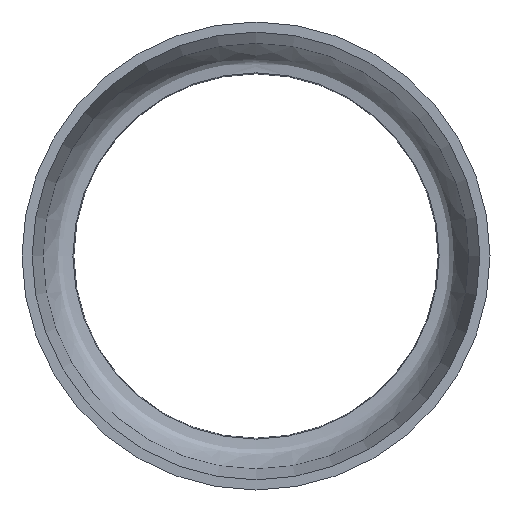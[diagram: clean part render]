
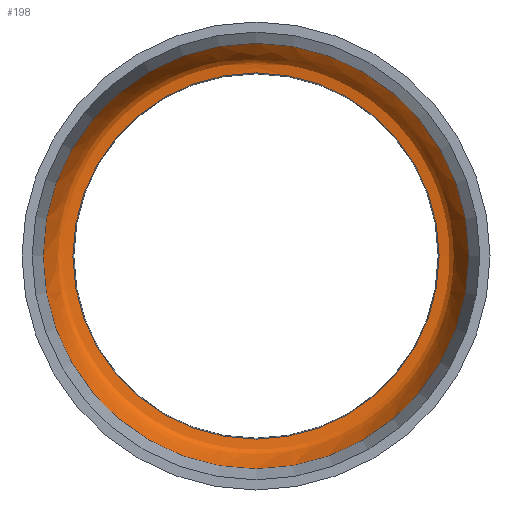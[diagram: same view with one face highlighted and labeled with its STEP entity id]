
A CAD part, front view. The second image highlights one B-rep face of the part: STEP entity #198.
In plain terms, the highlighted free-form (B-spline) face has degree [2, 2] with [3, 9] control points.
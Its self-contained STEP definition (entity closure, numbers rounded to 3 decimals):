
#23=(
BOUNDED_CURVE()
B_SPLINE_CURVE(2,(#440,#441,#442),.UNSPECIFIED.,.F.,.F.)
B_SPLINE_CURVE_WITH_KNOTS((3,3),(0.,1.28),.UNSPECIFIED.)
CURVE()
GEOMETRIC_REPRESENTATION_ITEM()
RATIONAL_B_SPLINE_CURVE((1.,3.,1.))
REPRESENTATION_ITEM('')
);
#26=(
BOUNDED_SURFACE()
B_SPLINE_SURFACE(2,2,((#412,#413,#414,#415,#416,#417,#418,#419,#420),(#421,
#422,#423,#424,#425,#426,#427,#428,#429),(#430,#431,#432,#433,#434,#435,
#436,#437,#438)),.UNSPECIFIED.,.F.,.T.,.F.)
B_SPLINE_SURFACE_WITH_KNOTS((3,3),(3,2,2,2,3),(0.,1.28),(0.,
1.571,3.142,4.712,6.283),
 .UNSPECIFIED.)
GEOMETRIC_REPRESENTATION_ITEM()
RATIONAL_B_SPLINE_SURFACE(((1.,0.707,1.,0.707,1.,
0.707,1.,0.707,1.),(3.,2.121,
3.,2.121,3.,2.121,3.,
2.121,3.),(1.,0.707,1.,0.707,
1.,0.707,1.,0.707,1.)))
REPRESENTATION_ITEM('')
SURFACE()
);
#55=FACE_OUTER_BOUND('',#72,.T.);
#72=EDGE_LOOP('',(#169,#170,#171,#172,#173));
#90=CIRCLE('',#238,45.);
#91=CIRCLE('',#239,52.346);
#92=CIRCLE('',#240,52.346);
#105=VERTEX_POINT('',#407);
#106=VERTEX_POINT('',#439);
#107=VERTEX_POINT('',#443);
#127=EDGE_CURVE('',#105,#105,#90,.T.);
#128=EDGE_CURVE('',#106,#105,#23,.T.);
#129=EDGE_CURVE('',#107,#106,#91,.T.);
#130=EDGE_CURVE('',#106,#107,#92,.T.);
#169=ORIENTED_EDGE('',*,*,#128,.T.);
#170=ORIENTED_EDGE('',*,*,#127,.T.);
#171=ORIENTED_EDGE('',*,*,#128,.F.);
#172=ORIENTED_EDGE('',*,*,#129,.F.);
#173=ORIENTED_EDGE('',*,*,#130,.F.);
#198=ADVANCED_FACE('',(#55),#26,.T.);
#238=AXIS2_PLACEMENT_3D('',#411,#295,#296);
#239=AXIS2_PLACEMENT_3D('',#444,#297,#298);
#240=AXIS2_PLACEMENT_3D('',#445,#299,#300);
#295=DIRECTION('center_axis',(0.,1.,0.));
#296=DIRECTION('ref_axis',(1.,0.,0.));
#297=DIRECTION('center_axis',(0.,1.,0.));
#298=DIRECTION('ref_axis',(1.,0.,0.));
#299=DIRECTION('center_axis',(0.,1.,0.));
#300=DIRECTION('ref_axis',(1.,0.,0.));
#407=CARTESIAN_POINT('',(0.,0.,45.));
#411=CARTESIAN_POINT('Origin',(0.,0.,0.));
#412=CARTESIAN_POINT('Ctrl Pts',(0.,-9.382,52.346));
#413=CARTESIAN_POINT('Ctrl Pts',(52.346,-9.382,52.346));
#414=CARTESIAN_POINT('Ctrl Pts',(52.346,-9.382,0.));
#415=CARTESIAN_POINT('Ctrl Pts',(52.346,-9.382,-52.346));
#416=CARTESIAN_POINT('Ctrl Pts',(0.,-9.382,-52.346));
#417=CARTESIAN_POINT('Ctrl Pts',(-52.346,-9.382,-52.346));
#418=CARTESIAN_POINT('Ctrl Pts',(-52.346,-9.382,0.));
#419=CARTESIAN_POINT('Ctrl Pts',(-52.346,-9.382,52.346));
#420=CARTESIAN_POINT('Ctrl Pts',(0.,-9.382,52.346));
#421=CARTESIAN_POINT('Ctrl Pts',(0.,0.003,48.548));
#422=CARTESIAN_POINT('Ctrl Pts',(48.548,0.003,48.548));
#423=CARTESIAN_POINT('Ctrl Pts',(48.548,0.003,0.));
#424=CARTESIAN_POINT('Ctrl Pts',(48.548,0.003,-48.548));
#425=CARTESIAN_POINT('Ctrl Pts',(0.,0.003,-48.548));
#426=CARTESIAN_POINT('Ctrl Pts',(-48.548,0.003,
-48.548));
#427=CARTESIAN_POINT('Ctrl Pts',(-48.548,0.003,
0.));
#428=CARTESIAN_POINT('Ctrl Pts',(-48.548,0.003,
48.548));
#429=CARTESIAN_POINT('Ctrl Pts',(0.,0.003,48.548));
#430=CARTESIAN_POINT('Ctrl Pts',(0.,0.,45.));
#431=CARTESIAN_POINT('Ctrl Pts',(45.,0.,45.));
#432=CARTESIAN_POINT('Ctrl Pts',(45.,0.,0.));
#433=CARTESIAN_POINT('Ctrl Pts',(45.,0.,-45.));
#434=CARTESIAN_POINT('Ctrl Pts',(0.,0.,-45.));
#435=CARTESIAN_POINT('Ctrl Pts',(-45.,0.,-45.));
#436=CARTESIAN_POINT('Ctrl Pts',(-45.,0.,0.));
#437=CARTESIAN_POINT('Ctrl Pts',(-45.,0.,45.));
#438=CARTESIAN_POINT('Ctrl Pts',(0.,0.,45.));
#439=CARTESIAN_POINT('',(0.,-9.382,52.346));
#440=CARTESIAN_POINT('Ctrl Pts',(0.,-9.382,52.346));
#441=CARTESIAN_POINT('Ctrl Pts',(0.,0.003,48.548));
#442=CARTESIAN_POINT('Ctrl Pts',(0.,0.,45.));
#443=CARTESIAN_POINT('',(0.,-9.382,-52.346));
#444=CARTESIAN_POINT('Origin',(0.,-9.382,0.));
#445=CARTESIAN_POINT('Origin',(0.,-9.382,0.));
